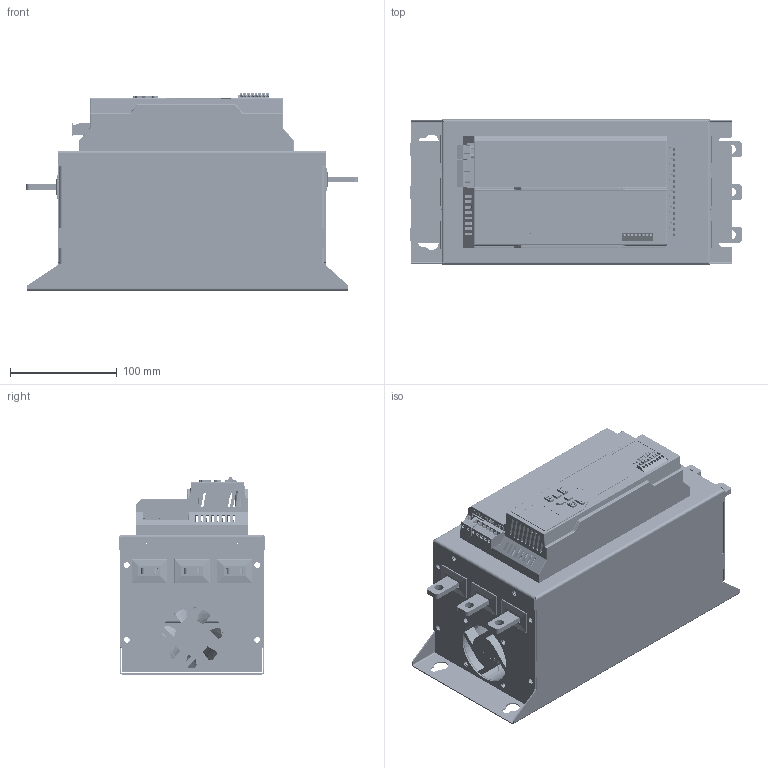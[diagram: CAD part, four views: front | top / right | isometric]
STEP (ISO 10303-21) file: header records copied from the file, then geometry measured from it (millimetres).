
FILE_DESCRIPTION((''),'2;1');
FILE_NAME('8800-45-75-0002_ASM','2025-04-02T20:07:00',('13048'),(''),'CREO PARAMETRIC BY PTC INC, 2021063','CREO PARAMETRIC BY PTC INC, 2021063','');
FILE_SCHEMA(('AUTOMOTIVE_DESIGN { 1 0 10303 214 1 1 1 1 }'));
Products named in the file (90): 8800-45-75-00; 8800-75-_000; ADMI5E8C7426R9X3_1__; ADMI5E8C7426R9X3_2__; ADMI5E8C7426R9X3_3__; ADMI5E8C7426R9X3_4__; ADMI5E8C7426R9X3_5__; ADMI5E8C7426R9X3_6__; ADMI5E8C7426R9X3_7__; ADMI5E8C7426R9X3_8__; ADMI5E8C7426R9X3_9__; ADMI5E8C7426R9X3_10__; ADMI5E8C7426R9X3_11__; ADMI5E8C7426R9X3_12__; ADMI5E8C7426R9X3_13__; ADMI5E8C7426R9X3_14__; ADMI5E8C7426R9X3_15__; ADMI5E8C7426R9X3_16__; ADMI5E8C7426R9X3_17__; _160A-DMI5E8C7426R0001_ASM; 8800-45-755-0001; 8800-45-75-0004; _110A-000; 8800-45-0001; 8800-15--2_0001_ASM; 8800-45-75-000; 8800-45-75KW-000; MN-45-75-DUTOU; CIHUAN-1000-1_; 6025__0001; 6025__000; 6025-_0001_ASM; 8800-45-75-0007; 8800-45-75-0008; 8800--18-37-PCB-2_1_1; 8800--18-37--128640001_1_1; _1D5-00-0001_1_1; _3D5-00-0001_1_1; _3D-00-0001_1_1; _3D5-6-0001_ASM_1_ASM_1_ASM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
Assembly tree (138 placements, depth 8):
  8800-45-75-0002_ASM
    8800-45-75-00
    8800-15--2_0001_ASM
      8800-75-_000
      _160A-DMI5E8C7426R0001_ASM  x4
        ADMI5E8C7426R9X3_1__
        ADMI5E8C7426R9X3_2__
        ADMI5E8C7426R9X3_3__
        ADMI5E8C7426R9X3_4__
        ADMI5E8C7426R9X3_5__
        ADMI5E8C7426R9X3_6__
        ADMI5E8C7426R9X3_7__
        ADMI5E8C7426R9X3_8__
        ADMI5E8C7426R9X3_9__
        ADMI5E8C7426R9X3_10__
        ADMI5E8C7426R9X3_11__
        ADMI5E8C7426R9X3_12__
        ADMI5E8C7426R9X3_13__
        ADMI5E8C7426R9X3_14__
        ADMI5E8C7426R9X3_15__
        ADMI5E8C7426R9X3_16__
        ADMI5E8C7426R9X3_17__
      8800-45-755-0001  x4
      8800-45-75-0004  x4
      _110A-000
      8800-45-0001
    8800-45-75-000
    8800-45-75KW-000
    8800-45-75KW-000
    8800-45-75-00
    MN-45-75-DUTOU  x6
    CIHUAN-1000-1_  x4
    6025-_0001_ASM
      6025__0001
      6025__000
    8800-45-75-0007  x4
    8800-45-75-0008  x3
    360-18-37KW-000_ASM_ASM
      360-18-37KW-000_ASM_1_ASM
        8800-18-37KW-000_ASM_1_ASM_1_ASM
          8800--18-37-PCB-200_ASM_1_ASM_1_ASM
            8800--18-37-PCB-2_1_1
            8800--18-37--128640001_1_1
            _3D5-6-0001_ASM_1_ASM_1_ASM
              _1D5-00-0001_1_1
              _3D5-00-0001_1_1  x3
              _3D-00-0001_1_1  x3
            _RJ450001_6_1
            _6-6-8-0001_1_1  x7
            254-0001_1_1  x10
            _3D5-00-0001_1_1
            _3D-00-0001_1_1
          360-18-37-0001_ASM_1_ASM_1_ASM
            360-18-37-000_1-133115_1
            _3-10001_1_1
            360-0001_1_1  x3
            8800-508-7P--00_1_1
            _-2540001_1_ASM_1_ASM
              _-2540001_1_1_1
              _-2540001_1_2_1
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Bounding box: 310.71 x 136 x 184.7 mm (x, y, z)
Volume: 1335691.2 mm3; surface area: 1118986.8 mm2
Topology: 169 solids, 169 shells, 13115 faces, 35677 edges, 23445 vertices
Faces by surface type: plane 8433, cylinder 2537, extrusion 1400, torus 341, bspline 220, sphere 120, cone 64
Entity records: 259979 total; most frequent: CARTESIAN_POINT 51299, ORIENTED_EDGE 33480, DIRECTION 29620, EDGE_CURVE 16740, PRESENTATION_STYLE_ASSIGNMENT 15285, STYLED_ITEM 15089, CURVE_STYLE 14920, VECTOR 13098
